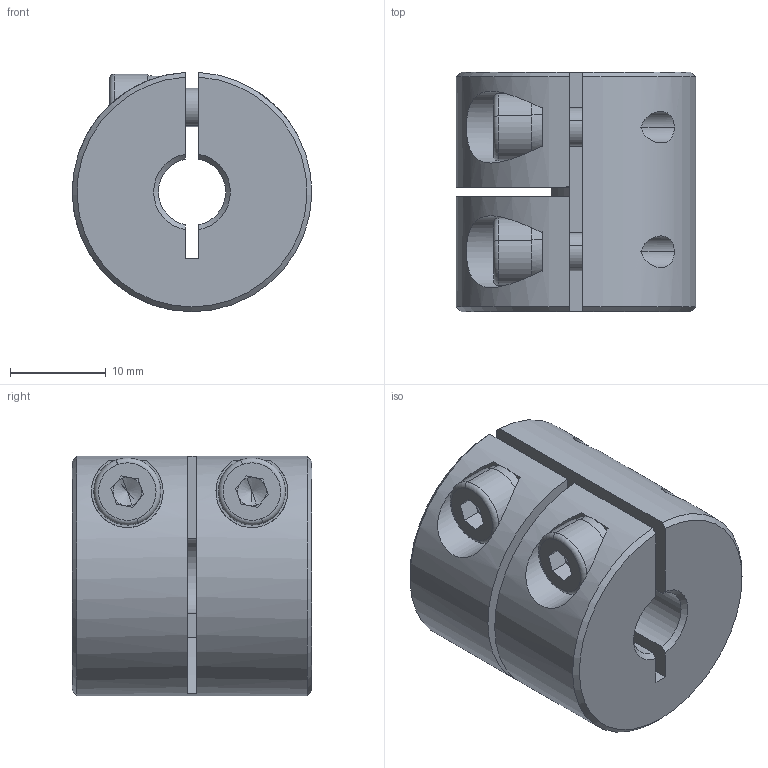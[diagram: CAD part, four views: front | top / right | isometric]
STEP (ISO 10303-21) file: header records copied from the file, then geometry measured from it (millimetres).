
FILE_DESCRIPTION (( 'STEP AP203' ), '1' );
FILE_NAME ('LL-B-D25L25-7-8.STEP', '2021-11-05T06:35:36', ( '' ), ( '' ), 'SwSTEP 2.0', 'SolidWorks 2018', '' );
FILE_SCHEMA (( 'CONFIG_CONTROL_DESIGN' ));
Length unit declared in the file: millimetre
Products named in the file (1): LL-B-D25L25-7-8
Bounding box: 24.99 x 25 x 24.98 mm (x, y, z)
Volume: 10361.7 mm3; surface area: 4952 mm2
Topology: 1 solids, 1 shells, 104 faces, 270 edges, 170 vertices
Faces by surface type: plane 52, cylinder 37, cone 11, torus 4
Entity records: 3471 total; most frequent: CARTESIAN_POINT 815, DIRECTION 560, ORIENTED_EDGE 532, EDGE_CURVE 266, AXIS2_PLACEMENT_3D 215, VERTEX_POINT 170, VECTOR 130, LINE 130
